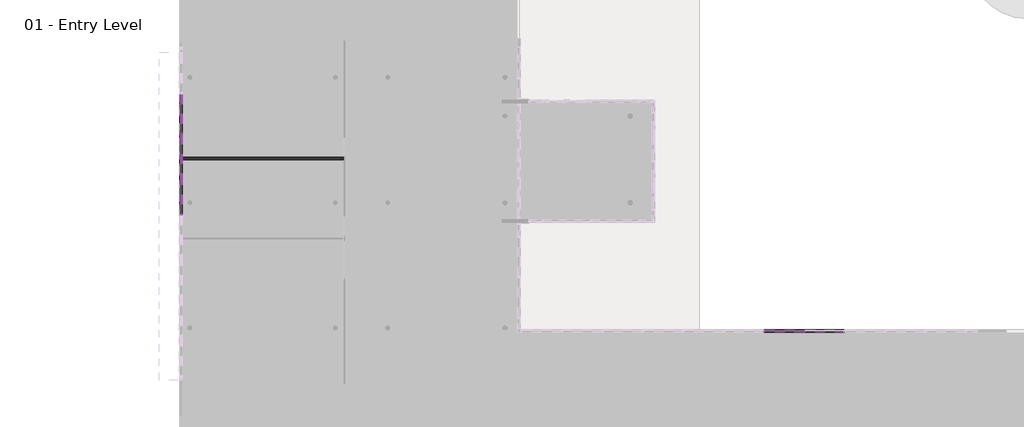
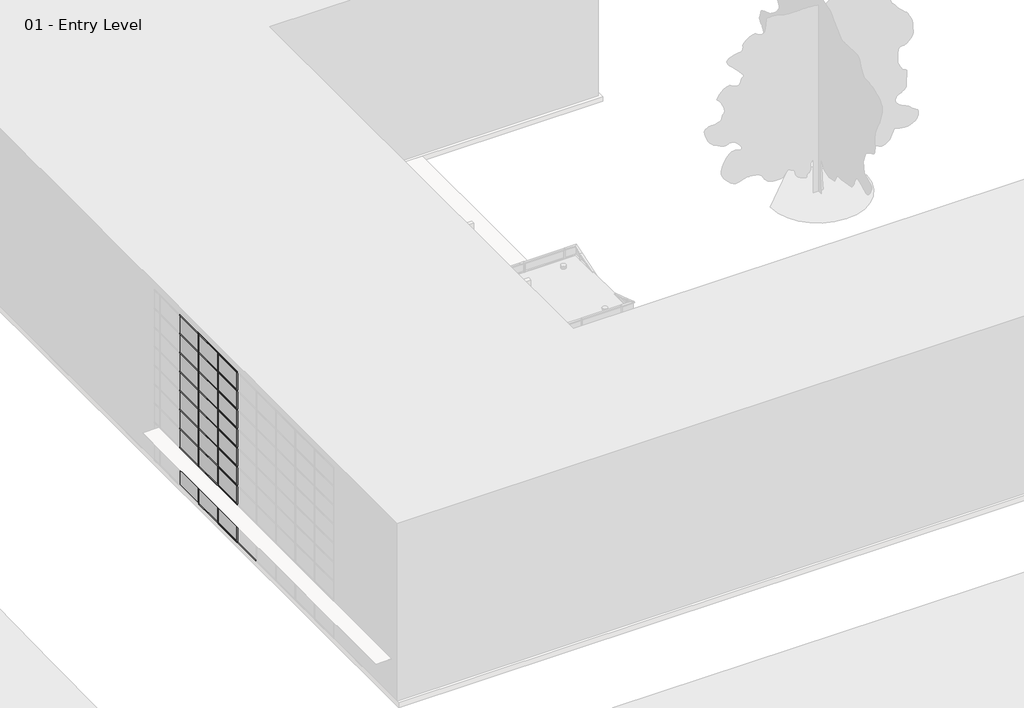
# One storey, part 11 of 34: 93 members, 36 plates, 1 wall.
"""IFC4 building model written with IfcOpenShell, lengths in millimetres."""

from ifc_helpers import new_model, si_unit, origin, origin_with_axes, place, context, project, spatial, polyline, outline, extrude, transform, mapped, element, save
from components import member_2b49869a, member_391b434c, member_9e90ae50, system_panel_glazed_1b9d6098, system_panel_glazed_70da479d, system_panel_solid_b376696c, system_panel_solid_77e8b053

model = new_model("IFC4")

# Units and contexts
model_context = context("Model", 3, world=origin())
ifc_project = project(units=[si_unit("LENGTHUNIT", "METRE", prefix="MILLI")], contexts=[model_context])

# Site, building, storey
site = spatial("IfcSite", under=ifc_project)
building = spatial("IfcBuilding", under=site)
storey = spatial("IfcBuildingStorey", under=building, Name="01 - Entry Level", Elevation=0.0)

# Members
placement = place(None, origin())
member_shape = member_2b49869a(model_context)
element("IfcMember", 1, ObjectType="Rectangular Mullion : 2.5\" x 5\" rectangular", at=placement, inside=storey, context=model_context, shape_type="MappedRepresentation", body=[
    mapped(member_shape, transform((178.7207476, 20920.0, 9753.6), x_axis=(0.0, -1.0, 0.0), y_axis=(-1.0, 0.0, 0.0), z_axis=(0.0, 0.0, -1.0))),
])
element("IfcMember", 2, ObjectType="Rectangular Mullion : 2.5\" x 5\" rectangular", at=placement, inside=storey, context=model_context, shape_type="MappedRepresentation", body=[
    mapped(member_shape, transform((178.7207476, 18888.0, 9753.6), x_axis=(0.0, -1.0, 0.0), y_axis=(-1.0, 0.0, 0.0), z_axis=(0.0, 0.0, -1.0))),
])
element("IfcMember", 3, ObjectType="Rectangular Mullion : 2.5\" x 5\" rectangular", at=placement, inside=storey, context=model_context, shape_type="MappedRepresentation", body=[
    mapped(member_shape, transform((178.7207476, 16856.0, 9753.6), x_axis=(0.0, -1.0, 0.0), y_axis=(-1.0, 0.0, 0.0), z_axis=(0.0, 0.0, -1.0))),
])
element("IfcMember", 4, ObjectType="Rectangular Mullion : 2.5\" x 5\" rectangular", at=placement, inside=storey, context=model_context, shape_type="MappedRepresentation", body=[
    mapped(member_shape, transform((31560.4207476, 11001.3, 9753.6), x_axis=(-1.0, 0.0, 0.0), y_axis=(0.0, 1.0, 0.0), z_axis=(0.0, 0.0, -1.0))),
])
element("IfcMember", 5, ObjectType="Rectangular Mullion : 2.5\" x 5\" rectangular", at=placement, inside=storey, context=model_context, shape_type="MappedRepresentation", body=[
    mapped(member_shape, transform((29528.4207476, 11001.3, 9753.6), x_axis=(-1.0, 0.0, 0.0), y_axis=(0.0, 1.0, 0.0), z_axis=(0.0, 0.0, -1.0))),
])
member_2_shape = member_391b434c(model_context)
element("IfcMember", 6, ObjectType="Rectangular Mullion : 2.5\" x 5\" rectangular", at=placement, inside=storey, context=model_context, shape_type="MappedRepresentation", body=[
    mapped(member_2_shape, transform((178.7207476, 20951.75, 10972.8), x_axis=(0.0, 0.0, 1.0), y_axis=(-1.0, 0.0, 0.0), z_axis=(0.0, -1.0, 0.0))),
])
element("IfcMember", 7, ObjectType="Rectangular Mullion : 2.5\" x 5\" rectangular", at=placement, inside=storey, context=model_context, shape_type="MappedRepresentation", body=[
    mapped(member_2_shape, transform((178.7207476, 18919.75, 10972.8), x_axis=(0.0, 0.0, 1.0), y_axis=(-1.0, 0.0, 0.0), z_axis=(0.0, -1.0, 0.0))),
])
element("IfcMember", 8, ObjectType="Rectangular Mullion : 2.5\" x 5\" rectangular", at=placement, inside=storey, context=model_context, shape_type="MappedRepresentation", body=[
    mapped(member_2_shape, transform((178.7207476, 16887.75, 10972.8), x_axis=(0.0, 0.0, 1.0), y_axis=(-1.0, 0.0, 0.0), z_axis=(0.0, -1.0, 0.0))),
])
element("IfcMember", 9, ObjectType="Rectangular Mullion : 2.5\" x 5\" rectangular", at=placement, inside=storey, context=model_context, shape_type="MappedRepresentation", body=[
    mapped(member_2_shape, transform((31592.1707476, 11001.3, 10972.8), x_axis=(0.0, 0.0, 1.0), y_axis=(0.0, 1.0, 0.0), z_axis=(-1.0, 0.0, 0.0))),
])
element("IfcMember", 10, ObjectType="Rectangular Mullion : 2.5\" x 5\" rectangular", at=placement, inside=storey, context=model_context, shape_type="MappedRepresentation", body=[
    mapped(member_2_shape, transform((178.7207476, 20888.25, 0.0), x_axis=(0.0, 0.0, -1.0), y_axis=(-1.0, 0.0, 0.0), z_axis=(0.0, 1.0, 0.0))),
])
element("IfcMember", 11, ObjectType="Rectangular Mullion : 2.5\" x 5\" rectangular", at=placement, inside=storey, context=model_context, shape_type="MappedRepresentation", body=[
    mapped(member_2_shape, transform((178.7207476, 18856.25, 0.0), x_axis=(0.0, 0.0, -1.0), y_axis=(-1.0, 0.0, 0.0), z_axis=(0.0, 1.0, 0.0))),
])
element("IfcMember", 12, ObjectType="Rectangular Mullion : 2.5\" x 5\" rectangular", at=placement, inside=storey, context=model_context, shape_type="MappedRepresentation", body=[
    mapped(member_2_shape, transform((178.7207476, 16824.25, 0.0), x_axis=(0.0, 0.0, -1.0), y_axis=(-1.0, 0.0, 0.0), z_axis=(0.0, 1.0, 0.0))),
])
element("IfcMember", 13, ObjectType="Rectangular Mullion : 2.5\" x 5\" rectangular", at=placement, inside=storey, context=model_context, shape_type="MappedRepresentation", body=[
    mapped(member_2_shape, transform((31528.6707476, 11001.3, 0.0), x_axis=(0.0, 0.0, -1.0), y_axis=(0.0, 1.0, 0.0), z_axis=(1.0, 0.0, 0.0))),
])
member_3_shape = member_9e90ae50(model_context)
element("IfcMember", 14, ObjectType="Rectangular Mullion : 2.5\" x 5\" rectangular", at=placement, inside=storey, context=model_context, shape_type="MappedRepresentation", body=[
    mapped(member_3_shape, transform((178.7207476, 20951.75, 1219.2), x_axis=(0.0, 0.0, 1.0), y_axis=(-1.0, 0.0, 0.0), z_axis=(0.0, -1.0, 0.0))),
])
element("IfcMember", 15, ObjectType="Rectangular Mullion : 2.5\" x 5\" rectangular", at=placement, inside=storey, context=model_context, shape_type="MappedRepresentation", body=[
    mapped(member_3_shape, transform((178.7207476, 18919.75, 1219.2), x_axis=(0.0, 0.0, 1.0), y_axis=(-1.0, 0.0, 0.0), z_axis=(0.0, -1.0, 0.0))),
])
element("IfcMember", 16, ObjectType="Rectangular Mullion : 2.5\" x 5\" rectangular", at=placement, inside=storey, context=model_context, shape_type="MappedRepresentation", body=[
    mapped(member_3_shape, transform((178.7207476, 16887.75, 1219.2), x_axis=(0.0, 0.0, 1.0), y_axis=(-1.0, 0.0, 0.0), z_axis=(0.0, -1.0, 0.0))),
])
element("IfcMember", 17, ObjectType="Rectangular Mullion : 2.5\" x 5\" rectangular", at=placement, inside=storey, context=model_context, shape_type="MappedRepresentation", body=[
    mapped(member_3_shape, transform((178.7207476, 20951.75, 2438.4), x_axis=(0.0, 0.0, 1.0), y_axis=(-1.0, 0.0, 0.0), z_axis=(0.0, -1.0, 0.0))),
])
element("IfcMember", 18, ObjectType="Rectangular Mullion : 2.5\" x 5\" rectangular", at=placement, inside=storey, context=model_context, shape_type="MappedRepresentation", body=[
    mapped(member_3_shape, transform((178.7207476, 18919.75, 2438.4), x_axis=(0.0, 0.0, 1.0), y_axis=(-1.0, 0.0, 0.0), z_axis=(0.0, -1.0, 0.0))),
])
element("IfcMember", 19, ObjectType="Rectangular Mullion : 2.5\" x 5\" rectangular", at=placement, inside=storey, context=model_context, shape_type="MappedRepresentation", body=[
    mapped(member_3_shape, transform((178.7207476, 16887.75, 2438.4), x_axis=(0.0, 0.0, 1.0), y_axis=(-1.0, 0.0, 0.0), z_axis=(0.0, -1.0, 0.0))),
])
element("IfcMember", 20, ObjectType="Rectangular Mullion : 2.5\" x 5\" rectangular", at=placement, inside=storey, context=model_context, shape_type="MappedRepresentation", body=[
    mapped(member_3_shape, transform((178.7207476, 20951.75, 3657.6), x_axis=(0.0, 0.0, 1.0), y_axis=(-1.0, 0.0, 0.0), z_axis=(0.0, -1.0, 0.0))),
])
element("IfcMember", 21, ObjectType="Rectangular Mullion : 2.5\" x 5\" rectangular", at=placement, inside=storey, context=model_context, shape_type="MappedRepresentation", body=[
    mapped(member_3_shape, transform((178.7207476, 18919.75, 3657.6), x_axis=(0.0, 0.0, 1.0), y_axis=(-1.0, 0.0, 0.0), z_axis=(0.0, -1.0, 0.0))),
])
element("IfcMember", 22, ObjectType="Rectangular Mullion : 2.5\" x 5\" rectangular", at=placement, inside=storey, context=model_context, shape_type="MappedRepresentation", body=[
    mapped(member_3_shape, transform((178.7207476, 16887.75, 3657.6), x_axis=(0.0, 0.0, 1.0), y_axis=(-1.0, 0.0, 0.0), z_axis=(0.0, -1.0, 0.0))),
])
element("IfcMember", 23, ObjectType="Rectangular Mullion : 2.5\" x 5\" rectangular", at=placement, inside=storey, context=model_context, shape_type="MappedRepresentation", body=[
    mapped(member_3_shape, transform((178.7207476, 20951.75, 4876.8), x_axis=(0.0, 0.0, 1.0), y_axis=(-1.0, 0.0, 0.0), z_axis=(0.0, -1.0, 0.0))),
])
element("IfcMember", 24, ObjectType="Rectangular Mullion : 2.5\" x 5\" rectangular", at=placement, inside=storey, context=model_context, shape_type="MappedRepresentation", body=[
    mapped(member_3_shape, transform((178.7207476, 18919.75, 4876.8), x_axis=(0.0, 0.0, 1.0), y_axis=(-1.0, 0.0, 0.0), z_axis=(0.0, -1.0, 0.0))),
])
element("IfcMember", 25, ObjectType="Rectangular Mullion : 2.5\" x 5\" rectangular", at=placement, inside=storey, context=model_context, shape_type="MappedRepresentation", body=[
    mapped(member_3_shape, transform((178.7207476, 16887.75, 4876.8), x_axis=(0.0, 0.0, 1.0), y_axis=(-1.0, 0.0, 0.0), z_axis=(0.0, -1.0, 0.0))),
])
element("IfcMember", 26, ObjectType="Rectangular Mullion : 2.5\" x 5\" rectangular", at=placement, inside=storey, context=model_context, shape_type="MappedRepresentation", body=[
    mapped(member_3_shape, transform((178.7207476, 20951.75, 6096.0), x_axis=(0.0, 0.0, 1.0), y_axis=(-1.0, 0.0, 0.0), z_axis=(0.0, -1.0, 0.0))),
])
element("IfcMember", 27, ObjectType="Rectangular Mullion : 2.5\" x 5\" rectangular", at=placement, inside=storey, context=model_context, shape_type="MappedRepresentation", body=[
    mapped(member_3_shape, transform((178.7207476, 18919.75, 6096.0), x_axis=(0.0, 0.0, 1.0), y_axis=(-1.0, 0.0, 0.0), z_axis=(0.0, -1.0, 0.0))),
])
element("IfcMember", 28, ObjectType="Rectangular Mullion : 2.5\" x 5\" rectangular", at=placement, inside=storey, context=model_context, shape_type="MappedRepresentation", body=[
    mapped(member_3_shape, transform((178.7207476, 16887.75, 6096.0), x_axis=(0.0, 0.0, 1.0), y_axis=(-1.0, 0.0, 0.0), z_axis=(0.0, -1.0, 0.0))),
])
element("IfcMember", 29, ObjectType="Rectangular Mullion : 2.5\" x 5\" rectangular", at=placement, inside=storey, context=model_context, shape_type="MappedRepresentation", body=[
    mapped(member_3_shape, transform((178.7207476, 20951.75, 7315.2), x_axis=(0.0, 0.0, 1.0), y_axis=(-1.0, 0.0, 0.0), z_axis=(0.0, -1.0, 0.0))),
])
element("IfcMember", 30, ObjectType="Rectangular Mullion : 2.5\" x 5\" rectangular", at=placement, inside=storey, context=model_context, shape_type="MappedRepresentation", body=[
    mapped(member_3_shape, transform((178.7207476, 18919.75, 7315.2), x_axis=(0.0, 0.0, 1.0), y_axis=(-1.0, 0.0, 0.0), z_axis=(0.0, -1.0, 0.0))),
])
element("IfcMember", 31, ObjectType="Rectangular Mullion : 2.5\" x 5\" rectangular", at=placement, inside=storey, context=model_context, shape_type="MappedRepresentation", body=[
    mapped(member_3_shape, transform((178.7207476, 16887.75, 7315.2), x_axis=(0.0, 0.0, 1.0), y_axis=(-1.0, 0.0, 0.0), z_axis=(0.0, -1.0, 0.0))),
])
element("IfcMember", 32, ObjectType="Rectangular Mullion : 2.5\" x 5\" rectangular", at=placement, inside=storey, context=model_context, shape_type="MappedRepresentation", body=[
    mapped(member_3_shape, transform((178.7207476, 20951.75, 8534.4), x_axis=(0.0, 0.0, 1.0), y_axis=(-1.0, 0.0, 0.0), z_axis=(0.0, -1.0, 0.0))),
])
element("IfcMember", 33, ObjectType="Rectangular Mullion : 2.5\" x 5\" rectangular", at=placement, inside=storey, context=model_context, shape_type="MappedRepresentation", body=[
    mapped(member_3_shape, transform((178.7207476, 18919.75, 8534.4), x_axis=(0.0, 0.0, 1.0), y_axis=(-1.0, 0.0, 0.0), z_axis=(0.0, -1.0, 0.0))),
])
element("IfcMember", 34, ObjectType="Rectangular Mullion : 2.5\" x 5\" rectangular", at=placement, inside=storey, context=model_context, shape_type="MappedRepresentation", body=[
    mapped(member_3_shape, transform((178.7207476, 16887.75, 8534.4), x_axis=(0.0, 0.0, 1.0), y_axis=(-1.0, 0.0, 0.0), z_axis=(0.0, -1.0, 0.0))),
])
element("IfcMember", 35, ObjectType="Rectangular Mullion : 2.5\" x 5\" rectangular", at=placement, inside=storey, context=model_context, shape_type="MappedRepresentation", body=[
    mapped(member_3_shape, transform((178.7207476, 20951.75, 9753.6), x_axis=(0.0, 0.0, 1.0), y_axis=(-1.0, 0.0, 0.0), z_axis=(0.0, -1.0, 0.0))),
])
element("IfcMember", 36, ObjectType="Rectangular Mullion : 2.5\" x 5\" rectangular", at=placement, inside=storey, context=model_context, shape_type="MappedRepresentation", body=[
    mapped(member_3_shape, transform((178.7207476, 18919.75, 9753.6), x_axis=(0.0, 0.0, 1.0), y_axis=(-1.0, 0.0, 0.0), z_axis=(0.0, -1.0, 0.0))),
])
element("IfcMember", 37, ObjectType="Rectangular Mullion : 2.5\" x 5\" rectangular", at=placement, inside=storey, context=model_context, shape_type="MappedRepresentation", body=[
    mapped(member_3_shape, transform((178.7207476, 16887.75, 9753.6), x_axis=(0.0, 0.0, 1.0), y_axis=(-1.0, 0.0, 0.0), z_axis=(0.0, -1.0, 0.0))),
])
element("IfcMember", 38, ObjectType="Rectangular Mullion : 2.5\" x 5\" rectangular", at=placement, inside=storey, context=model_context, shape_type="MappedRepresentation", body=[
    mapped(member_3_shape, transform((31592.1707476, 11001.3, 1219.2), x_axis=(0.0, 0.0, 1.0), y_axis=(0.0, 1.0, 0.0), z_axis=(-1.0, 0.0, 0.0))),
])
element("IfcMember", 39, ObjectType="Rectangular Mullion : 2.5\" x 5\" rectangular", at=placement, inside=storey, context=model_context, shape_type="MappedRepresentation", body=[
    mapped(member_3_shape, transform((29560.1707476, 11001.3, 1219.2), x_axis=(0.0, 0.0, 1.0), y_axis=(0.0, 1.0, 0.0), z_axis=(-1.0, 0.0, 0.0))),
])
element("IfcMember", 40, ObjectType="Rectangular Mullion : 2.5\" x 5\" rectangular", at=placement, inside=storey, context=model_context, shape_type="MappedRepresentation", body=[
    mapped(member_3_shape, transform((31592.1707476, 11001.3, 2438.4), x_axis=(0.0, 0.0, 1.0), y_axis=(0.0, 1.0, 0.0), z_axis=(-1.0, 0.0, 0.0))),
])
element("IfcMember", 41, ObjectType="Rectangular Mullion : 2.5\" x 5\" rectangular", at=placement, inside=storey, context=model_context, shape_type="MappedRepresentation", body=[
    mapped(member_3_shape, transform((29560.1707476, 11001.3, 2438.4), x_axis=(0.0, 0.0, 1.0), y_axis=(0.0, 1.0, 0.0), z_axis=(-1.0, 0.0, 0.0))),
])
element("IfcMember", 42, ObjectType="Rectangular Mullion : 2.5\" x 5\" rectangular", at=placement, inside=storey, context=model_context, shape_type="MappedRepresentation", body=[
    mapped(member_3_shape, transform((31592.1707476, 11001.3, 3657.6), x_axis=(0.0, 0.0, 1.0), y_axis=(0.0, 1.0, 0.0), z_axis=(-1.0, 0.0, 0.0))),
])
element("IfcMember", 43, ObjectType="Rectangular Mullion : 2.5\" x 5\" rectangular", at=placement, inside=storey, context=model_context, shape_type="MappedRepresentation", body=[
    mapped(member_3_shape, transform((29560.1707476, 11001.3, 3657.6), x_axis=(0.0, 0.0, 1.0), y_axis=(0.0, 1.0, 0.0), z_axis=(-1.0, 0.0, 0.0))),
])
element("IfcMember", 44, ObjectType="Rectangular Mullion : 2.5\" x 5\" rectangular", at=placement, inside=storey, context=model_context, shape_type="MappedRepresentation", body=[
    mapped(member_3_shape, transform((31592.1707476, 11001.3, 4876.8), x_axis=(0.0, 0.0, 1.0), y_axis=(0.0, 1.0, 0.0), z_axis=(-1.0, 0.0, 0.0))),
])
element("IfcMember", 45, ObjectType="Rectangular Mullion : 2.5\" x 5\" rectangular", at=placement, inside=storey, context=model_context, shape_type="MappedRepresentation", body=[
    mapped(member_3_shape, transform((29560.1707476, 11001.3, 4876.8), x_axis=(0.0, 0.0, 1.0), y_axis=(0.0, 1.0, 0.0), z_axis=(-1.0, 0.0, 0.0))),
])
element("IfcMember", 46, ObjectType="Rectangular Mullion : 2.5\" x 5\" rectangular", at=placement, inside=storey, context=model_context, shape_type="MappedRepresentation", body=[
    mapped(member_3_shape, transform((31592.1707476, 11001.3, 6096.0), x_axis=(0.0, 0.0, 1.0), y_axis=(0.0, 1.0, 0.0), z_axis=(-1.0, 0.0, 0.0))),
])
element("IfcMember", 47, ObjectType="Rectangular Mullion : 2.5\" x 5\" rectangular", at=placement, inside=storey, context=model_context, shape_type="MappedRepresentation", body=[
    mapped(member_3_shape, transform((29560.1707476, 11001.3, 6096.0), x_axis=(0.0, 0.0, 1.0), y_axis=(0.0, 1.0, 0.0), z_axis=(-1.0, 0.0, 0.0))),
])
element("IfcMember", 48, ObjectType="Rectangular Mullion : 2.5\" x 5\" rectangular", at=placement, inside=storey, context=model_context, shape_type="MappedRepresentation", body=[
    mapped(member_3_shape, transform((31592.1707476, 11001.3, 7315.2), x_axis=(0.0, 0.0, 1.0), y_axis=(0.0, 1.0, 0.0), z_axis=(-1.0, 0.0, 0.0))),
])
element("IfcMember", 49, ObjectType="Rectangular Mullion : 2.5\" x 5\" rectangular", at=placement, inside=storey, context=model_context, shape_type="MappedRepresentation", body=[
    mapped(member_3_shape, transform((29560.1707476, 11001.3, 7315.2), x_axis=(0.0, 0.0, 1.0), y_axis=(0.0, 1.0, 0.0), z_axis=(-1.0, 0.0, 0.0))),
])
element("IfcMember", 50, ObjectType="Rectangular Mullion : 2.5\" x 5\" rectangular", at=placement, inside=storey, context=model_context, shape_type="MappedRepresentation", body=[
    mapped(member_3_shape, transform((31592.1707476, 11001.3, 8534.4), x_axis=(0.0, 0.0, 1.0), y_axis=(0.0, 1.0, 0.0), z_axis=(-1.0, 0.0, 0.0))),
])
element("IfcMember", 51, ObjectType="Rectangular Mullion : 2.5\" x 5\" rectangular", at=placement, inside=storey, context=model_context, shape_type="MappedRepresentation", body=[
    mapped(member_3_shape, transform((29560.1707476, 11001.3, 8534.4), x_axis=(0.0, 0.0, 1.0), y_axis=(0.0, 1.0, 0.0), z_axis=(-1.0, 0.0, 0.0))),
])
element("IfcMember", 52, ObjectType="Rectangular Mullion : 2.5\" x 5\" rectangular", at=placement, inside=storey, context=model_context, shape_type="MappedRepresentation", body=[
    mapped(member_3_shape, transform((31592.1707476, 11001.3, 9753.6), x_axis=(0.0, 0.0, 1.0), y_axis=(0.0, 1.0, 0.0), z_axis=(-1.0, 0.0, 0.0))),
])
element("IfcMember", 53, ObjectType="Rectangular Mullion : 2.5\" x 5\" rectangular", at=placement, inside=storey, context=model_context, shape_type="MappedRepresentation", body=[
    mapped(member_3_shape, transform((29560.1707476, 11001.3, 9753.6), x_axis=(0.0, 0.0, 1.0), y_axis=(0.0, 1.0, 0.0), z_axis=(-1.0, 0.0, 0.0))),
])
element("IfcMember", 54, ObjectType="Rectangular Mullion : 2.5\" x 5\" rectangular", at=placement, inside=storey, context=model_context, shape_type="MappedRepresentation", body=[
    mapped(member_shape, transform((178.7207476, 20920.0, 0.0), x_axis=(0.0, -1.0, 0.0), y_axis=(-1.0, 0.0, 0.0), z_axis=(0.0, 0.0, -1.0))),
])
element("IfcMember", 55, ObjectType="Rectangular Mullion : 2.5\" x 5\" rectangular", at=placement, inside=storey, context=model_context, shape_type="MappedRepresentation", body=[
    mapped(member_shape, transform((178.7207476, 18888.0, 0.0), x_axis=(0.0, -1.0, 0.0), y_axis=(-1.0, 0.0, 0.0), z_axis=(0.0, 0.0, -1.0))),
])
element("IfcMember", 56, ObjectType="Rectangular Mullion : 2.5\" x 5\" rectangular", at=placement, inside=storey, context=model_context, shape_type="MappedRepresentation", body=[
    mapped(member_shape, transform((178.7207476, 16856.0, 0.0), x_axis=(0.0, -1.0, 0.0), y_axis=(-1.0, 0.0, 0.0), z_axis=(0.0, 0.0, -1.0))),
])
element("IfcMember", 57, ObjectType="Rectangular Mullion : 2.5\" x 5\" rectangular", at=placement, inside=storey, context=model_context, shape_type="MappedRepresentation", body=[
    mapped(member_shape, transform((31560.4207476, 11001.3, 0.0), x_axis=(-1.0, 0.0, 0.0), y_axis=(0.0, 1.0, 0.0), z_axis=(0.0, 0.0, -1.0))),
])
element("IfcMember", 58, ObjectType="Rectangular Mullion : 2.5\" x 5\" rectangular", at=placement, inside=storey, context=model_context, shape_type="MappedRepresentation", body=[
    mapped(member_shape, transform((29528.4207476, 11001.3, 0.0), x_axis=(-1.0, 0.0, 0.0), y_axis=(0.0, 1.0, 0.0), z_axis=(0.0, 0.0, -1.0))),
])
element("IfcMember", 59, ObjectType="Rectangular Mullion : 2.5\" x 5\" rectangular", at=placement, inside=storey, context=model_context, shape_type="MappedRepresentation", body=[
    mapped(member_shape, transform((178.7207476, 20920.0, 1219.2), x_axis=(0.0, -1.0, 0.0), y_axis=(-1.0, 0.0, 0.0), z_axis=(0.0, 0.0, -1.0))),
])
element("IfcMember", 60, ObjectType="Rectangular Mullion : 2.5\" x 5\" rectangular", at=placement, inside=storey, context=model_context, shape_type="MappedRepresentation", body=[
    mapped(member_shape, transform((178.7207476, 18888.0, 1219.2), x_axis=(0.0, -1.0, 0.0), y_axis=(-1.0, 0.0, 0.0), z_axis=(0.0, 0.0, -1.0))),
])
element("IfcMember", 61, ObjectType="Rectangular Mullion : 2.5\" x 5\" rectangular", at=placement, inside=storey, context=model_context, shape_type="MappedRepresentation", body=[
    mapped(member_shape, transform((178.7207476, 16856.0, 1219.2), x_axis=(0.0, -1.0, 0.0), y_axis=(-1.0, 0.0, 0.0), z_axis=(0.0, 0.0, -1.0))),
])
element("IfcMember", 62, ObjectType="Rectangular Mullion : 2.5\" x 5\" rectangular", at=placement, inside=storey, context=model_context, shape_type="MappedRepresentation", body=[
    mapped(member_shape, transform((178.7207476, 20920.0, 2438.4), x_axis=(0.0, -1.0, 0.0), y_axis=(-1.0, 0.0, 0.0), z_axis=(0.0, 0.0, -1.0))),
])
element("IfcMember", 63, ObjectType="Rectangular Mullion : 2.5\" x 5\" rectangular", at=placement, inside=storey, context=model_context, shape_type="MappedRepresentation", body=[
    mapped(member_shape, transform((178.7207476, 18888.0, 2438.4), x_axis=(0.0, -1.0, 0.0), y_axis=(-1.0, 0.0, 0.0), z_axis=(0.0, 0.0, -1.0))),
])
element("IfcMember", 64, ObjectType="Rectangular Mullion : 2.5\" x 5\" rectangular", at=placement, inside=storey, context=model_context, shape_type="MappedRepresentation", body=[
    mapped(member_shape, transform((178.7207476, 16856.0, 2438.4), x_axis=(0.0, -1.0, 0.0), y_axis=(-1.0, 0.0, 0.0), z_axis=(0.0, 0.0, -1.0))),
])
element("IfcMember", 65, ObjectType="Rectangular Mullion : 2.5\" x 5\" rectangular", at=placement, inside=storey, context=model_context, shape_type="MappedRepresentation", body=[
    mapped(member_shape, transform((178.7207476, 20920.0, 3657.6), x_axis=(0.0, -1.0, 0.0), y_axis=(-1.0, 0.0, 0.0), z_axis=(0.0, 0.0, -1.0))),
])
element("IfcMember", 66, ObjectType="Rectangular Mullion : 2.5\" x 5\" rectangular", at=placement, inside=storey, context=model_context, shape_type="MappedRepresentation", body=[
    mapped(member_shape, transform((178.7207476, 18888.0, 3657.6), x_axis=(0.0, -1.0, 0.0), y_axis=(-1.0, 0.0, 0.0), z_axis=(0.0, 0.0, -1.0))),
])
element("IfcMember", 67, ObjectType="Rectangular Mullion : 2.5\" x 5\" rectangular", at=placement, inside=storey, context=model_context, shape_type="MappedRepresentation", body=[
    mapped(member_shape, transform((178.7207476, 16856.0, 3657.6), x_axis=(0.0, -1.0, 0.0), y_axis=(-1.0, 0.0, 0.0), z_axis=(0.0, 0.0, -1.0))),
])
element("IfcMember", 68, ObjectType="Rectangular Mullion : 2.5\" x 5\" rectangular", at=placement, inside=storey, context=model_context, shape_type="MappedRepresentation", body=[
    mapped(member_shape, transform((178.7207476, 20920.0, 4876.8), x_axis=(0.0, -1.0, 0.0), y_axis=(-1.0, 0.0, 0.0), z_axis=(0.0, 0.0, -1.0))),
])
element("IfcMember", 69, ObjectType="Rectangular Mullion : 2.5\" x 5\" rectangular", at=placement, inside=storey, context=model_context, shape_type="MappedRepresentation", body=[
    mapped(member_shape, transform((178.7207476, 18888.0, 4876.8), x_axis=(0.0, -1.0, 0.0), y_axis=(-1.0, 0.0, 0.0), z_axis=(0.0, 0.0, -1.0))),
])
element("IfcMember", 70, ObjectType="Rectangular Mullion : 2.5\" x 5\" rectangular", at=placement, inside=storey, context=model_context, shape_type="MappedRepresentation", body=[
    mapped(member_shape, transform((178.7207476, 16856.0, 4876.8), x_axis=(0.0, -1.0, 0.0), y_axis=(-1.0, 0.0, 0.0), z_axis=(0.0, 0.0, -1.0))),
])
element("IfcMember", 71, ObjectType="Rectangular Mullion : 2.5\" x 5\" rectangular", at=placement, inside=storey, context=model_context, shape_type="MappedRepresentation", body=[
    mapped(member_shape, transform((178.7207476, 20920.0, 6096.0), x_axis=(0.0, -1.0, 0.0), y_axis=(-1.0, 0.0, 0.0), z_axis=(0.0, 0.0, -1.0))),
])
element("IfcMember", 72, ObjectType="Rectangular Mullion : 2.5\" x 5\" rectangular", at=placement, inside=storey, context=model_context, shape_type="MappedRepresentation", body=[
    mapped(member_shape, transform((178.7207476, 18888.0, 6096.0), x_axis=(0.0, -1.0, 0.0), y_axis=(-1.0, 0.0, 0.0), z_axis=(0.0, 0.0, -1.0))),
])
element("IfcMember", 73, ObjectType="Rectangular Mullion : 2.5\" x 5\" rectangular", at=placement, inside=storey, context=model_context, shape_type="MappedRepresentation", body=[
    mapped(member_shape, transform((178.7207476, 16856.0, 6096.0), x_axis=(0.0, -1.0, 0.0), y_axis=(-1.0, 0.0, 0.0), z_axis=(0.0, 0.0, -1.0))),
])
element("IfcMember", 74, ObjectType="Rectangular Mullion : 2.5\" x 5\" rectangular", at=placement, inside=storey, context=model_context, shape_type="MappedRepresentation", body=[
    mapped(member_shape, transform((178.7207476, 20920.0, 7315.2), x_axis=(0.0, -1.0, 0.0), y_axis=(-1.0, 0.0, 0.0), z_axis=(0.0, 0.0, -1.0))),
])
element("IfcMember", 75, ObjectType="Rectangular Mullion : 2.5\" x 5\" rectangular", at=placement, inside=storey, context=model_context, shape_type="MappedRepresentation", body=[
    mapped(member_shape, transform((178.7207476, 18888.0, 7315.2), x_axis=(0.0, -1.0, 0.0), y_axis=(-1.0, 0.0, 0.0), z_axis=(0.0, 0.0, -1.0))),
])
element("IfcMember", 76, ObjectType="Rectangular Mullion : 2.5\" x 5\" rectangular", at=placement, inside=storey, context=model_context, shape_type="MappedRepresentation", body=[
    mapped(member_shape, transform((178.7207476, 16856.0, 7315.2), x_axis=(0.0, -1.0, 0.0), y_axis=(-1.0, 0.0, 0.0), z_axis=(0.0, 0.0, -1.0))),
])
element("IfcMember", 77, ObjectType="Rectangular Mullion : 2.5\" x 5\" rectangular", at=placement, inside=storey, context=model_context, shape_type="MappedRepresentation", body=[
    mapped(member_shape, transform((178.7207476, 20920.0, 8534.4), x_axis=(0.0, -1.0, 0.0), y_axis=(-1.0, 0.0, 0.0), z_axis=(0.0, 0.0, -1.0))),
])
element("IfcMember", 78, ObjectType="Rectangular Mullion : 2.5\" x 5\" rectangular", at=placement, inside=storey, context=model_context, shape_type="MappedRepresentation", body=[
    mapped(member_shape, transform((178.7207476, 18888.0, 8534.4), x_axis=(0.0, -1.0, 0.0), y_axis=(-1.0, 0.0, 0.0), z_axis=(0.0, 0.0, -1.0))),
])
element("IfcMember", 79, ObjectType="Rectangular Mullion : 2.5\" x 5\" rectangular", at=placement, inside=storey, context=model_context, shape_type="MappedRepresentation", body=[
    mapped(member_shape, transform((178.7207476, 16856.0, 8534.4), x_axis=(0.0, -1.0, 0.0), y_axis=(-1.0, 0.0, 0.0), z_axis=(0.0, 0.0, -1.0))),
])
element("IfcMember", 80, ObjectType="Rectangular Mullion : 2.5\" x 5\" rectangular", at=placement, inside=storey, context=model_context, shape_type="MappedRepresentation", body=[
    mapped(member_shape, transform((31560.4207476, 11001.3, 1219.2), x_axis=(-1.0, 0.0, 0.0), y_axis=(0.0, 1.0, 0.0), z_axis=(0.0, 0.0, -1.0))),
])
element("IfcMember", 81, ObjectType="Rectangular Mullion : 2.5\" x 5\" rectangular", at=placement, inside=storey, context=model_context, shape_type="MappedRepresentation", body=[
    mapped(member_shape, transform((29528.4207476, 11001.3, 1219.2), x_axis=(-1.0, 0.0, 0.0), y_axis=(0.0, 1.0, 0.0), z_axis=(0.0, 0.0, -1.0))),
])
element("IfcMember", 82, ObjectType="Rectangular Mullion : 2.5\" x 5\" rectangular", at=placement, inside=storey, context=model_context, shape_type="MappedRepresentation", body=[
    mapped(member_shape, transform((31560.4207476, 11001.3, 2438.4), x_axis=(-1.0, 0.0, 0.0), y_axis=(0.0, 1.0, 0.0), z_axis=(0.0, 0.0, -1.0))),
])
element("IfcMember", 83, ObjectType="Rectangular Mullion : 2.5\" x 5\" rectangular", at=placement, inside=storey, context=model_context, shape_type="MappedRepresentation", body=[
    mapped(member_shape, transform((29528.4207476, 11001.3, 2438.4), x_axis=(-1.0, 0.0, 0.0), y_axis=(0.0, 1.0, 0.0), z_axis=(0.0, 0.0, -1.0))),
])
element("IfcMember", 84, ObjectType="Rectangular Mullion : 2.5\" x 5\" rectangular", at=placement, inside=storey, context=model_context, shape_type="MappedRepresentation", body=[
    mapped(member_shape, transform((31560.4207476, 11001.3, 3657.6), x_axis=(-1.0, 0.0, 0.0), y_axis=(0.0, 1.0, 0.0), z_axis=(0.0, 0.0, -1.0))),
])
element("IfcMember", 85, ObjectType="Rectangular Mullion : 2.5\" x 5\" rectangular", at=placement, inside=storey, context=model_context, shape_type="MappedRepresentation", body=[
    mapped(member_shape, transform((29528.4207476, 11001.3, 3657.6), x_axis=(-1.0, 0.0, 0.0), y_axis=(0.0, 1.0, 0.0), z_axis=(0.0, 0.0, -1.0))),
])
element("IfcMember", 86, ObjectType="Rectangular Mullion : 2.5\" x 5\" rectangular", at=placement, inside=storey, context=model_context, shape_type="MappedRepresentation", body=[
    mapped(member_shape, transform((31560.4207476, 11001.3, 4876.8), x_axis=(-1.0, 0.0, 0.0), y_axis=(0.0, 1.0, 0.0), z_axis=(0.0, 0.0, -1.0))),
])
element("IfcMember", 87, ObjectType="Rectangular Mullion : 2.5\" x 5\" rectangular", at=placement, inside=storey, context=model_context, shape_type="MappedRepresentation", body=[
    mapped(member_shape, transform((29528.4207476, 11001.3, 4876.8), x_axis=(-1.0, 0.0, 0.0), y_axis=(0.0, 1.0, 0.0), z_axis=(0.0, 0.0, -1.0))),
])
element("IfcMember", 88, ObjectType="Rectangular Mullion : 2.5\" x 5\" rectangular", at=placement, inside=storey, context=model_context, shape_type="MappedRepresentation", body=[
    mapped(member_shape, transform((31560.4207476, 11001.3, 6096.0), x_axis=(-1.0, 0.0, 0.0), y_axis=(0.0, 1.0, 0.0), z_axis=(0.0, 0.0, -1.0))),
])
element("IfcMember", 89, ObjectType="Rectangular Mullion : 2.5\" x 5\" rectangular", at=placement, inside=storey, context=model_context, shape_type="MappedRepresentation", body=[
    mapped(member_shape, transform((29528.4207476, 11001.3, 6096.0), x_axis=(-1.0, 0.0, 0.0), y_axis=(0.0, 1.0, 0.0), z_axis=(0.0, 0.0, -1.0))),
])
element("IfcMember", 90, ObjectType="Rectangular Mullion : 2.5\" x 5\" rectangular", at=placement, inside=storey, context=model_context, shape_type="MappedRepresentation", body=[
    mapped(member_shape, transform((31560.4207476, 11001.3, 7315.2), x_axis=(-1.0, 0.0, 0.0), y_axis=(0.0, 1.0, 0.0), z_axis=(0.0, 0.0, -1.0))),
])
element("IfcMember", 91, ObjectType="Rectangular Mullion : 2.5\" x 5\" rectangular", at=placement, inside=storey, context=model_context, shape_type="MappedRepresentation", body=[
    mapped(member_shape, transform((29528.4207476, 11001.3, 7315.2), x_axis=(-1.0, 0.0, 0.0), y_axis=(0.0, 1.0, 0.0), z_axis=(0.0, 0.0, -1.0))),
])
element("IfcMember", 92, ObjectType="Rectangular Mullion : 2.5\" x 5\" rectangular", at=placement, inside=storey, context=model_context, shape_type="MappedRepresentation", body=[
    mapped(member_shape, transform((31560.4207476, 11001.3, 8534.4), x_axis=(-1.0, 0.0, 0.0), y_axis=(0.0, 1.0, 0.0), z_axis=(0.0, 0.0, -1.0))),
])
element("IfcMember", 93, ObjectType="Rectangular Mullion : 2.5\" x 5\" rectangular", at=placement, inside=storey, context=model_context, shape_type="MappedRepresentation", body=[
    mapped(member_shape, transform((29528.4207476, 11001.3, 8534.4), x_axis=(-1.0, 0.0, 0.0), y_axis=(0.0, 1.0, 0.0), z_axis=(0.0, 0.0, -1.0))),
])

# Plates
system_panel_glazed_shape = system_panel_glazed_1b9d6098(model_context)
element("IfcPlate", 94, ObjectType="System Panel : Glazed", at=placement, inside=storey, context=model_context, shape_type="MappedRepresentation", body=[
    mapped(system_panel_glazed_shape, transform((30544.4207476, 11001.3, 63.5), x_axis=(-1.0, 0.0, 0.0), y_axis=(0.0, -1.0, 0.0), z_axis=(0.0, 0.0, 1.0))),
])
element("IfcPlate", 95, ObjectType="System Panel : Glazed", at=placement, inside=storey, context=model_context, shape_type="MappedRepresentation", body=[
    mapped(system_panel_glazed_shape, transform((30544.4207476, 11001.3, 9785.35), x_axis=(-1.0, 0.0, 0.0), y_axis=(0.0, -1.0, 0.0), z_axis=(0.0, 0.0, 1.0))),
])
element("IfcPlate", 96, ObjectType="System Panel : Glazed", at=placement, inside=storey, context=model_context, shape_type="MappedRepresentation", body=[
    mapped(system_panel_glazed_shape, transform((178.7207476, 21936.0, 63.5), x_axis=(0.0, -1.0, 0.0), y_axis=(1.0, 0.0, 0.0), z_axis=(0.0, 0.0, 1.0))),
])
element("IfcPlate", 97, ObjectType="System Panel : Glazed", at=placement, inside=storey, context=model_context, shape_type="MappedRepresentation", body=[
    mapped(system_panel_glazed_shape, transform((178.7207476, 19904.0, 63.5), x_axis=(0.0, -1.0, 0.0), y_axis=(1.0, 0.0, 0.0), z_axis=(0.0, 0.0, 1.0))),
])
element("IfcPlate", 98, ObjectType="System Panel : Glazed", at=placement, inside=storey, context=model_context, shape_type="MappedRepresentation", body=[
    mapped(system_panel_glazed_shape, transform((178.7207476, 17872.0, 63.5), x_axis=(0.0, -1.0, 0.0), y_axis=(1.0, 0.0, 0.0), z_axis=(0.0, 0.0, 1.0))),
])
system_panel_glazed_2_shape = system_panel_glazed_70da479d(model_context)
element("IfcPlate", 99, ObjectType="System Panel : Glazed", at=placement, inside=storey, context=model_context, shape_type="MappedRepresentation", body=[
    mapped(system_panel_glazed_2_shape, transform((30544.4207476, 11001.3, 1250.95), x_axis=(-1.0, 0.0, 0.0), y_axis=(0.0, -1.0, 0.0), z_axis=(0.0, 0.0, 1.0))),
])
element("IfcPlate", 100, ObjectType="System Panel : Glazed", at=placement, inside=storey, context=model_context, shape_type="MappedRepresentation", body=[
    mapped(system_panel_glazed_2_shape, transform((30544.4207476, 11001.3, 2470.15), x_axis=(-1.0, 0.0, 0.0), y_axis=(0.0, -1.0, 0.0), z_axis=(0.0, 0.0, 1.0))),
])
element("IfcPlate", 101, ObjectType="System Panel : Glazed", at=placement, inside=storey, context=model_context, shape_type="MappedRepresentation", body=[
    mapped(system_panel_glazed_2_shape, transform((30544.4207476, 11001.3, 3689.35), x_axis=(-1.0, 0.0, 0.0), y_axis=(0.0, -1.0, 0.0), z_axis=(0.0, 0.0, 1.0))),
])
element("IfcPlate", 102, ObjectType="System Panel : Glazed", at=placement, inside=storey, context=model_context, shape_type="MappedRepresentation", body=[
    mapped(system_panel_glazed_2_shape, transform((30544.4207476, 11001.3, 4908.55), x_axis=(-1.0, 0.0, 0.0), y_axis=(0.0, -1.0, 0.0), z_axis=(0.0, 0.0, 1.0))),
])
element("IfcPlate", 103, ObjectType="System Panel : Glazed", at=placement, inside=storey, context=model_context, shape_type="MappedRepresentation", body=[
    mapped(system_panel_glazed_2_shape, transform((30544.4207476, 11001.3, 6127.75), x_axis=(-1.0, 0.0, 0.0), y_axis=(0.0, -1.0, 0.0), z_axis=(0.0, 0.0, 1.0))),
])
element("IfcPlate", 104, ObjectType="System Panel : Glazed", at=placement, inside=storey, context=model_context, shape_type="MappedRepresentation", body=[
    mapped(system_panel_glazed_2_shape, transform((30544.4207476, 11001.3, 7346.95), x_axis=(-1.0, 0.0, 0.0), y_axis=(0.0, -1.0, 0.0), z_axis=(0.0, 0.0, 1.0))),
])
element("IfcPlate", 105, ObjectType="System Panel : Glazed", at=placement, inside=storey, context=model_context, shape_type="MappedRepresentation", body=[
    mapped(system_panel_glazed_2_shape, transform((30544.4207476, 11001.3, 8566.15), x_axis=(-1.0, 0.0, 0.0), y_axis=(0.0, -1.0, 0.0), z_axis=(0.0, 0.0, 1.0))),
])
element("IfcPlate", 106, ObjectType="System Panel : Glazed", at=placement, inside=storey, context=model_context, shape_type="MappedRepresentation", body=[
    mapped(system_panel_glazed_2_shape, transform((178.7207476, 21936.0, 1250.95), x_axis=(0.0, -1.0, 0.0), y_axis=(1.0, 0.0, 0.0), z_axis=(0.0, 0.0, 1.0))),
])
element("IfcPlate", 107, ObjectType="System Panel : Glazed", at=placement, inside=storey, context=model_context, shape_type="MappedRepresentation", body=[
    mapped(system_panel_glazed_2_shape, transform((178.7207476, 19904.0, 1250.95), x_axis=(0.0, -1.0, 0.0), y_axis=(1.0, 0.0, 0.0), z_axis=(0.0, 0.0, 1.0))),
])
element("IfcPlate", 108, ObjectType="System Panel : Glazed", at=placement, inside=storey, context=model_context, shape_type="MappedRepresentation", body=[
    mapped(system_panel_glazed_2_shape, transform((178.7207476, 17872.0, 1250.95), x_axis=(0.0, -1.0, 0.0), y_axis=(1.0, 0.0, 0.0), z_axis=(0.0, 0.0, 1.0))),
])
element("IfcPlate", 109, ObjectType="System Panel : Glazed", at=placement, inside=storey, context=model_context, shape_type="MappedRepresentation", body=[
    mapped(system_panel_glazed_2_shape, transform((178.7207476, 21936.0, 3689.35), x_axis=(0.0, -1.0, 0.0), y_axis=(1.0, 0.0, 0.0), z_axis=(0.0, 0.0, 1.0))),
])
element("IfcPlate", 110, ObjectType="System Panel : Glazed", at=placement, inside=storey, context=model_context, shape_type="MappedRepresentation", body=[
    mapped(system_panel_glazed_2_shape, transform((178.7207476, 19904.0, 3689.35), x_axis=(0.0, -1.0, 0.0), y_axis=(1.0, 0.0, 0.0), z_axis=(0.0, 0.0, 1.0))),
])
element("IfcPlate", 111, ObjectType="System Panel : Glazed", at=placement, inside=storey, context=model_context, shape_type="MappedRepresentation", body=[
    mapped(system_panel_glazed_2_shape, transform((178.7207476, 17872.0, 3689.35), x_axis=(0.0, -1.0, 0.0), y_axis=(1.0, 0.0, 0.0), z_axis=(0.0, 0.0, 1.0))),
])
element("IfcPlate", 112, ObjectType="System Panel : Glazed", at=placement, inside=storey, context=model_context, shape_type="MappedRepresentation", body=[
    mapped(system_panel_glazed_2_shape, transform((178.7207476, 21936.0, 4908.55), x_axis=(0.0, -1.0, 0.0), y_axis=(1.0, 0.0, 0.0), z_axis=(0.0, 0.0, 1.0))),
])
element("IfcPlate", 113, ObjectType="System Panel : Glazed", at=placement, inside=storey, context=model_context, shape_type="MappedRepresentation", body=[
    mapped(system_panel_glazed_2_shape, transform((178.7207476, 19904.0, 4908.55), x_axis=(0.0, -1.0, 0.0), y_axis=(1.0, 0.0, 0.0), z_axis=(0.0, 0.0, 1.0))),
])
element("IfcPlate", 114, ObjectType="System Panel : Glazed", at=placement, inside=storey, context=model_context, shape_type="MappedRepresentation", body=[
    mapped(system_panel_glazed_2_shape, transform((178.7207476, 17872.0, 4908.55), x_axis=(0.0, -1.0, 0.0), y_axis=(1.0, 0.0, 0.0), z_axis=(0.0, 0.0, 1.0))),
])
element("IfcPlate", 115, ObjectType="System Panel : Glazed", at=placement, inside=storey, context=model_context, shape_type="MappedRepresentation", body=[
    mapped(system_panel_glazed_2_shape, transform((178.7207476, 21936.0, 7346.95), x_axis=(0.0, -1.0, 0.0), y_axis=(1.0, 0.0, 0.0), z_axis=(0.0, 0.0, 1.0))),
])
element("IfcPlate", 116, ObjectType="System Panel : Glazed", at=placement, inside=storey, context=model_context, shape_type="MappedRepresentation", body=[
    mapped(system_panel_glazed_2_shape, transform((178.7207476, 19904.0, 7346.95), x_axis=(0.0, -1.0, 0.0), y_axis=(1.0, 0.0, 0.0), z_axis=(0.0, 0.0, 1.0))),
])
element("IfcPlate", 117, ObjectType="System Panel : Glazed", at=placement, inside=storey, context=model_context, shape_type="MappedRepresentation", body=[
    mapped(system_panel_glazed_2_shape, transform((178.7207476, 17872.0, 7346.95), x_axis=(0.0, -1.0, 0.0), y_axis=(1.0, 0.0, 0.0), z_axis=(0.0, 0.0, 1.0))),
])
element("IfcPlate", 118, ObjectType="System Panel : Glazed", at=placement, inside=storey, context=model_context, shape_type="MappedRepresentation", body=[
    mapped(system_panel_glazed_2_shape, transform((178.7207476, 21936.0, 8566.15), x_axis=(0.0, -1.0, 0.0), y_axis=(1.0, 0.0, 0.0), z_axis=(0.0, 0.0, 1.0))),
])
element("IfcPlate", 119, ObjectType="System Panel : Glazed", at=placement, inside=storey, context=model_context, shape_type="MappedRepresentation", body=[
    mapped(system_panel_glazed_2_shape, transform((178.7207476, 19904.0, 8566.15), x_axis=(0.0, -1.0, 0.0), y_axis=(1.0, 0.0, 0.0), z_axis=(0.0, 0.0, 1.0))),
])
element("IfcPlate", 120, ObjectType="System Panel : Glazed", at=placement, inside=storey, context=model_context, shape_type="MappedRepresentation", body=[
    mapped(system_panel_glazed_2_shape, transform((178.7207476, 17872.0, 8566.15), x_axis=(0.0, -1.0, 0.0), y_axis=(1.0, 0.0, 0.0), z_axis=(0.0, 0.0, 1.0))),
])
system_panel_solid_shape = system_panel_solid_b376696c(model_context)
element("IfcPlate", 121, ObjectType="System Panel : Solid", at=placement, inside=storey, context=model_context, shape_type="MappedRepresentation", body=[
    mapped(system_panel_solid_shape, transform((178.7207476, 21936.0, 9785.35), x_axis=(0.0, -1.0, 0.0), y_axis=(1.0, 0.0, 0.0), z_axis=(0.0, 0.0, 1.0))),
])
element("IfcPlate", 122, ObjectType="System Panel : Solid", at=placement, inside=storey, context=model_context, shape_type="MappedRepresentation", body=[
    mapped(system_panel_solid_shape, transform((178.7207476, 19904.0, 9785.35), x_axis=(0.0, -1.0, 0.0), y_axis=(1.0, 0.0, 0.0), z_axis=(0.0, 0.0, 1.0))),
])
element("IfcPlate", 123, ObjectType="System Panel : Solid", at=placement, inside=storey, context=model_context, shape_type="MappedRepresentation", body=[
    mapped(system_panel_solid_shape, transform((178.7207476, 17872.0, 9785.35), x_axis=(0.0, -1.0, 0.0), y_axis=(1.0, 0.0, 0.0), z_axis=(0.0, 0.0, 1.0))),
])
system_panel_solid_2_shape = system_panel_solid_77e8b053(model_context)
element("IfcPlate", 124, ObjectType="System Panel : Solid", at=placement, inside=storey, context=model_context, shape_type="MappedRepresentation", body=[
    mapped(system_panel_solid_2_shape, transform((178.7207476, 21936.0, 2470.15), x_axis=(0.0, -1.0, 0.0), y_axis=(1.0, 0.0, 0.0), z_axis=(0.0, 0.0, 1.0))),
])
element("IfcPlate", 125, ObjectType="System Panel : Solid", at=placement, inside=storey, context=model_context, shape_type="MappedRepresentation", body=[
    mapped(system_panel_solid_2_shape, transform((178.7207476, 19904.0, 2470.15), x_axis=(0.0, -1.0, 0.0), y_axis=(1.0, 0.0, 0.0), z_axis=(0.0, 0.0, 1.0))),
])
element("IfcPlate", 126, ObjectType="System Panel : Solid", at=placement, inside=storey, context=model_context, shape_type="MappedRepresentation", body=[
    mapped(system_panel_solid_2_shape, transform((178.7207476, 17872.0, 2470.15), x_axis=(0.0, -1.0, 0.0), y_axis=(1.0, 0.0, 0.0), z_axis=(0.0, 0.0, 1.0))),
])
element("IfcPlate", 127, ObjectType="System Panel : Solid", at=placement, inside=storey, context=model_context, shape_type="MappedRepresentation", body=[
    mapped(system_panel_solid_2_shape, transform((178.7207476, 21936.0, 6127.75), x_axis=(0.0, -1.0, 0.0), y_axis=(1.0, 0.0, 0.0), z_axis=(0.0, 0.0, 1.0))),
])
element("IfcPlate", 128, ObjectType="System Panel : Solid", at=placement, inside=storey, context=model_context, shape_type="MappedRepresentation", body=[
    mapped(system_panel_solid_2_shape, transform((178.7207476, 19904.0, 6127.75), x_axis=(0.0, -1.0, 0.0), y_axis=(1.0, 0.0, 0.0), z_axis=(0.0, 0.0, 1.0))),
])
element("IfcPlate", 129, ObjectType="System Panel : Solid", at=placement, inside=storey, context=model_context, shape_type="MappedRepresentation", body=[
    mapped(system_panel_solid_2_shape, transform((178.7207476, 17872.0, 6127.75), x_axis=(0.0, -1.0, 0.0), y_axis=(1.0, 0.0, 0.0), z_axis=(0.0, 0.0, 1.0))),
])

# Wall
element("IfcWall", 130, ObjectType="Generic - 5\"", at=placement, inside=storey, context=model_context, shape_type="SweptSolid", body=[
    extrude(outline(polyline([(178.7207476, 19738.9), (8357.5207476, 19738.9), (8357.5207476, 19611.9), (178.7207476, 19611.9), (178.7207476, 19738.9)])), origin_with_axes(), (0.0, 0.0, 1.0), 3403.6),
])

save(model, "model.ifc")
